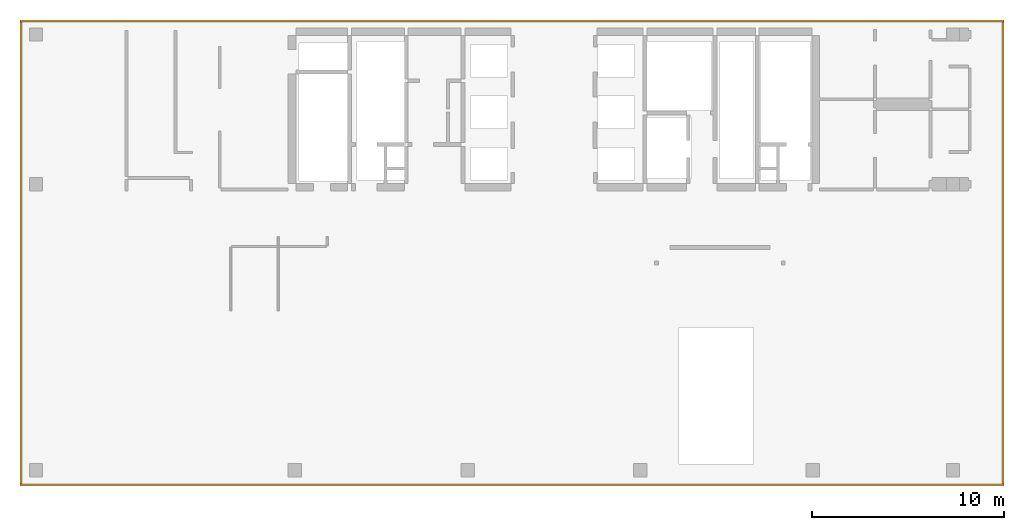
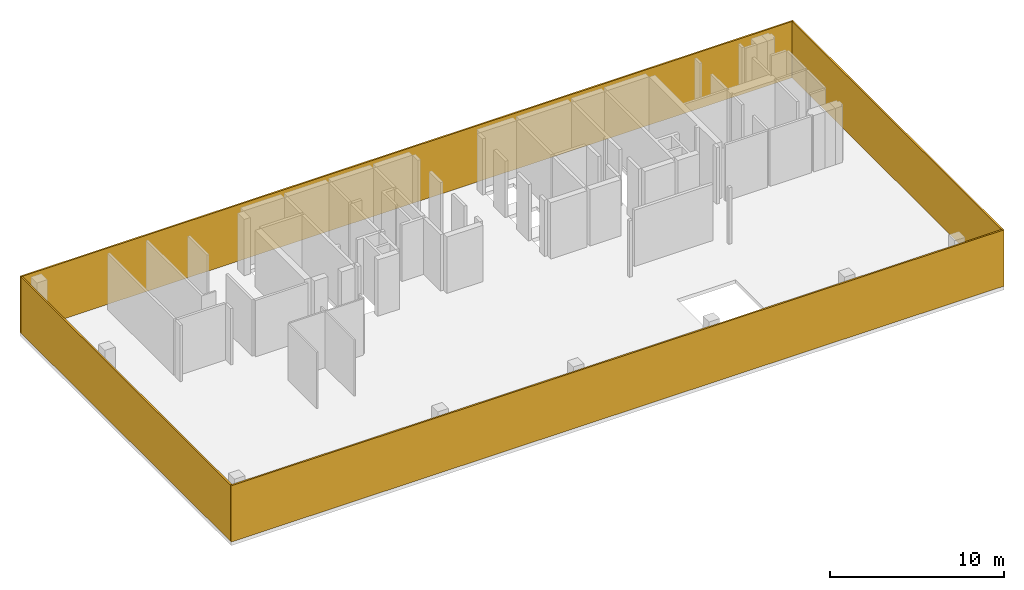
# One storey, part 4 of 4: 4 curtain walls.
"""IFC4 building model written with IfcOpenShell, lengths in millimetres."""

from ifc_helpers import new_model, si_unit, frame, origin, place, context, project, spatial, triangles, element, save


model = new_model("IFC4")

# Units and contexts
model_context = context("Model", 3, precision=0.001, world=origin())
ifc_project = project(units=[si_unit("LENGTHUNIT", "METRE", prefix="MILLI"), si_unit("AREAUNIT", "SQUARE_METRE"), si_unit("VOLUMEUNIT", "CUBIC_METRE")], contexts=[model_context])

# Site, building, storey
site_placement = place(None, origin())
site = spatial("IfcSite", under=ifc_project, at=site_placement, Name="Site", CompositionType="ELEMENT")
building_placement = place(site_placement, origin())
building = spatial("IfcBuilding", under=site, at=building_placement, Name="INNOCEAN", CompositionType="ELEMENT")
storey_placement = place(building_placement, frame((0.0, 0.0, 55400.0)))
storey = spatial("IfcBuildingStorey", under=building, at=storey_placement, Name="F13", CompositionType="ELEMENT", Elevation=55400.0)

# Curtain walls
curtain_wall_1_placement = place(storey_placement, origin())
element("IfcCurtainWall", 1, at=curtain_wall_1_placement, inside=storey, Name="F13_Facade_F13_001", context=model_context, shape_type="Tessellation", body=[
    triangles([(50420.3187250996, 25825.974025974, 0.0), (-846.215139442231, 25825.974025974, 0.0), (-846.215139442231, 25825.974025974, 3950.0), (50420.3187250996, 25825.974025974, 3950.0), (50420.3187250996, 25720.1298701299, 0.0), (50420.3187250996, 25720.1298701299, 3950.0), (-846.215139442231, 25720.1298701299, 0.0), (-846.215139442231, 25720.1298701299, 3950.0)], [[1, 2, 3], [1, 3, 4], [5, 1, 4], [5, 4, 6], [7, 5, 6], [7, 6, 8], [2, 7, 8], [2, 8, 3], [2, 1, 5], [2, 5, 7], [4, 3, 6], [6, 3, 8]], closed=True),
])
curtain_wall_2_placement = place(storey_placement, origin())
element("IfcCurtainWall", 2, at=curtain_wall_2_placement, inside=storey, Name="F13_Facade_F13_002", context=model_context, shape_type="Tessellation", body=[
    triangles([(50420.3187250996, 1658.22510822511, 0.0), (-846.215139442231, 1658.22510822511, 0.0), (-846.215139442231, 1658.22510822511, 3950.0), (50420.3187250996, 1658.22510822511, 3950.0), (50420.3187250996, 1552.38095238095, 0.0), (50420.3187250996, 1552.38095238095, 3950.0), (-846.215139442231, 1552.38095238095, 0.0), (-846.215139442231, 1552.38095238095, 3950.0)], [[1, 2, 3], [1, 3, 4], [5, 1, 4], [5, 4, 6], [7, 5, 6], [7, 6, 8], [2, 7, 8], [2, 8, 3], [2, 1, 5], [2, 5, 7], [4, 3, 6], [6, 3, 8]], closed=True),
])
curtain_wall_3_placement = place(storey_placement, origin())
element("IfcCurtainWall", 3, at=curtain_wall_3_placement, inside=storey, Name="F13_Facade_F13_003", context=model_context, shape_type="Tessellation", body=[
    triangles([(-740.438247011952, 25720.1298701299, 0.0), (-846.215139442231, 25720.1298701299, 0.0), (-846.215139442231, 25720.1298701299, 3950.0), (-740.438247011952, 25720.1298701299, 3950.0), (-740.438247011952, 1658.22510822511, 0.0), (-740.438247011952, 1658.22510822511, 3950.0), (-846.215139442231, 1658.22510822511, 0.0), (-846.215139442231, 1658.22510822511, 3950.0)], [[1, 2, 3], [1, 3, 4], [5, 1, 4], [5, 4, 6], [7, 5, 6], [7, 6, 8], [2, 7, 8], [2, 8, 3], [2, 1, 5], [2, 5, 7], [4, 3, 6], [6, 3, 8]], closed=True),
])
curtain_wall_4_placement = place(storey_placement, origin())
element("IfcCurtainWall", 4, at=curtain_wall_4_placement, inside=storey, Name="F13_Facade_F13_004", context=model_context, shape_type="Tessellation", body=[
    triangles([(50420.3187250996, 25720.1298701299, 0.0), (50314.5418326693, 25720.1298701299, 0.0), (50314.5418326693, 25720.1298701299, 3950.0), (50420.3187250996, 25720.1298701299, 3950.0), (50420.3187250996, 1658.22510822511, 0.0), (50420.3187250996, 1658.22510822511, 3950.0), (50314.5418326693, 1658.22510822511, 0.0), (50314.5418326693, 1658.22510822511, 3950.0)], [[1, 2, 3], [1, 3, 4], [5, 1, 4], [5, 4, 6], [7, 5, 6], [7, 6, 8], [2, 7, 8], [2, 8, 3], [2, 1, 5], [2, 5, 7], [4, 3, 6], [6, 3, 8]], closed=True),
])

save(model, "model.ifc")
